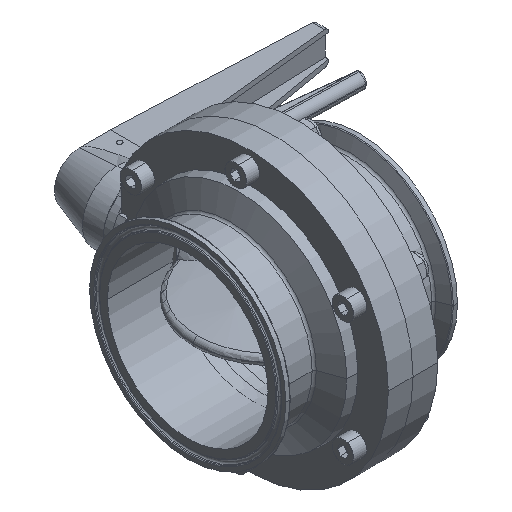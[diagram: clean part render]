
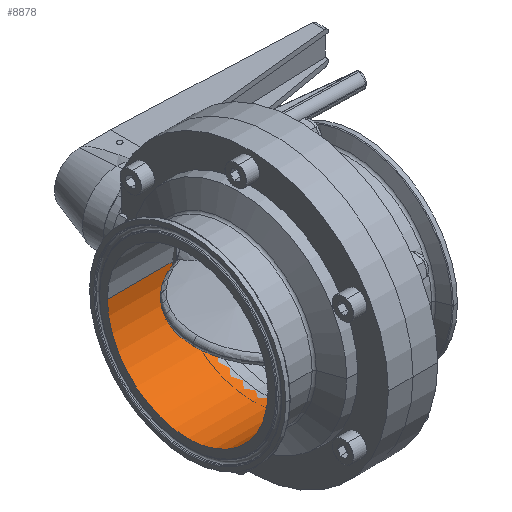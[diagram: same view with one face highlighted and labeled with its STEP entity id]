
A CAD part, isometric view. The second image highlights one B-rep face of the part: STEP entity #8878.
In plain terms, the highlighted cylindrical face has radius 48.65 mm (diameter 97.3 mm), a partial arc.
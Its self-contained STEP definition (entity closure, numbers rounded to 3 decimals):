
#1189 = CARTESIAN_POINT ( 'NONE',  ( 0., 0., 48.65 ) ) ;
#2569 = ORIENTED_EDGE ( 'NONE', *, *, #25306, .T. ) ;
#3114 = DIRECTION ( 'NONE',  ( -1., 0., 0. ) ) ;
#4010 = CYLINDRICAL_SURFACE ( 'NONE', #27058, 48.65 ) ;
#5125 = ORIENTED_EDGE ( 'NONE', *, *, #24584, .T. ) ;
#5212 = CARTESIAN_POINT ( 'NONE',  ( 52., 0., 48.65 ) ) ;
#5459 = CARTESIAN_POINT ( 'NONE',  ( 0., 0., 0. ) ) ;
#6340 = FACE_OUTER_BOUND ( 'NONE', #29998, .T. ) ;
#6723 = ORIENTED_EDGE ( 'NONE', *, *, #15102, .F. ) ;
#6726 = CIRCLE ( 'NONE', #18986, 48.65 ) ;
#7252 = CARTESIAN_POINT ( 'NONE',  ( 0., 0., 48.65 ) ) ;
#8076 = DIRECTION ( 'NONE',  ( 0., 0., 1. ) ) ;
#8878 = ADVANCED_FACE ( 'NONE', ( #6340 ), #4010, .F. ) ;
#8889 = AXIS2_PLACEMENT_3D ( 'NONE', #5459, #3114, #8076 ) ;
#9334 = DIRECTION ( 'NONE',  ( 0., 0., 1. ) ) ;
#11390 = VECTOR ( 'NONE', #29511, 1000. ) ;
#13410 = DIRECTION ( 'NONE',  ( -1., 0., 0. ) ) ;
#14073 = VERTEX_POINT ( 'NONE', #5212 ) ;
#15056 = LINE ( 'NONE', #29067, #11390 ) ;
#15102 = EDGE_CURVE ( 'NONE', #14073, #29755, #6726, .T. ) ;
#16170 = DIRECTION ( 'NONE',  ( 0., 0., 1. ) ) ;
#16408 = VERTEX_POINT ( 'NONE', #19430 ) ;
#18142 = EDGE_CURVE ( 'NONE', #29755, #16408, #15056, .T. ) ;
#18165 = VERTEX_POINT ( 'NONE', #1189 ) ;
#18621 = LINE ( 'NONE', #7252, #24807 ) ;
#18695 = CARTESIAN_POINT ( 'NONE',  ( 52., 0., 0. ) ) ;
#18862 = CARTESIAN_POINT ( 'NONE',  ( 52., 0., -48.65 ) ) ;
#18986 = AXIS2_PLACEMENT_3D ( 'NONE', #18695, #25928, #9334 ) ;
#19430 = CARTESIAN_POINT ( 'NONE',  ( 0., 0., -48.65 ) ) ;
#19693 = CIRCLE ( 'NONE', #8889, 48.65 ) ;
#23084 = CARTESIAN_POINT ( 'NONE',  ( 0., 0., 0. ) ) ;
#23551 = DIRECTION ( 'NONE',  ( -1., 0., 0. ) ) ;
#24584 = EDGE_CURVE ( 'NONE', #14073, #18165, #18621, .T. ) ;
#24807 = VECTOR ( 'NONE', #23551, 1000. ) ;
#25306 = EDGE_CURVE ( 'NONE', #18165, #16408, #19693, .T. ) ;
#25928 = DIRECTION ( 'NONE',  ( -1., 0., 0. ) ) ;
#27058 = AXIS2_PLACEMENT_3D ( 'NONE', #23084, #13410, #16170 ) ;
#28123 = ORIENTED_EDGE ( 'NONE', *, *, #18142, .F. ) ;
#29067 = CARTESIAN_POINT ( 'NONE',  ( 0., 0., -48.65 ) ) ;
#29511 = DIRECTION ( 'NONE',  ( -1., 0., 0. ) ) ;
#29755 = VERTEX_POINT ( 'NONE', #18862 ) ;
#29998 = EDGE_LOOP ( 'NONE', ( #28123, #6723, #5125, #2569 ) ) ;
